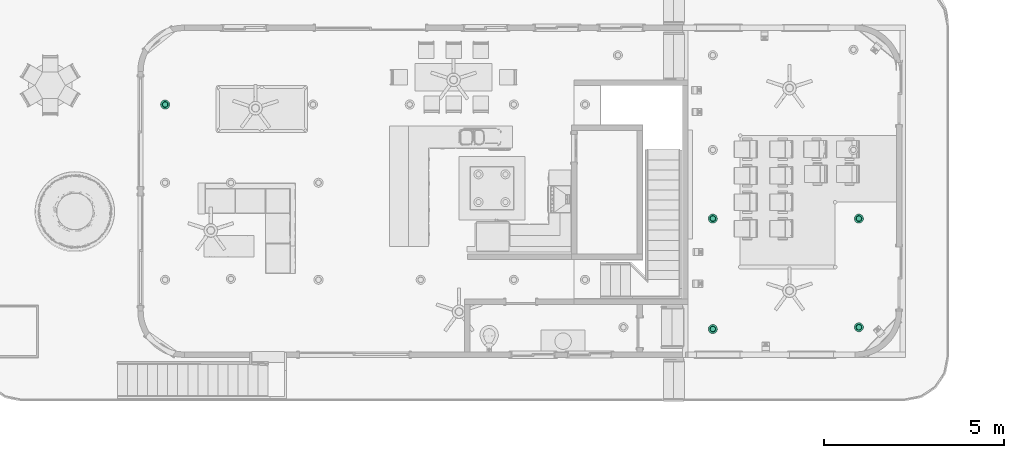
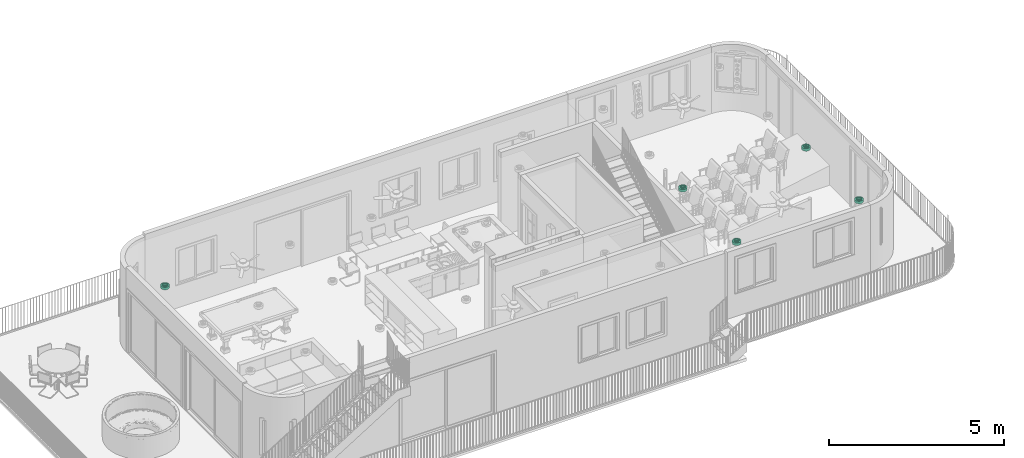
# One storey, part 15 of 21: 5 flow terminals.
"""IFC2X3 building model written with IfcOpenShell, lengths in feet."""

from ifc_helpers import new_model, entity, si_unit, converted_unit, derived_unit, direction, frame, origin, place, context, subcontext, project, spatial, faceted_brep, source, transform, mapped, material, material_list, type_object, type_shapes, element, save


model = new_model("IFC2X3")

# Units and contexts
model_context = context("Model", 3, precision=0.0001, world=origin(), true_north=direction((6.12303176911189e-17, 1.0)))
body_context = subcontext(model_context, "Body", "Model", "MODEL_VIEW")
ifc_project = project(units=[converted_unit("LENGTHUNIT", "FOOT", entity("IfcRatioMeasure", 0.3048), si_unit("LENGTHUNIT", "METRE"), dimensions=[1, 0, 0, 0, 0, 0, 0]), converted_unit("AREAUNIT", "SQUARE FOOT", entity("IfcRatioMeasure", 0.09290304), si_unit("AREAUNIT", "SQUARE_METRE"), dimensions=[2, 0, 0, 0, 0, 0, 0]), converted_unit("VOLUMEUNIT", "CUBIC FOOT", entity("IfcRatioMeasure", 0.028316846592), si_unit("VOLUMEUNIT", "CUBIC_METRE"), dimensions=[3, 0, 0, 0, 0, 0, 0]), converted_unit("PLANEANGLEUNIT", "DEGREE", entity("IfcRatioMeasure", 0.0174532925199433), si_unit("PLANEANGLEUNIT", "RADIAN"), dimensions=[0, 0, 0, 0, 0, 0, 0]), si_unit("MASSUNIT", "GRAM", prefix="KILO"), derived_unit("MASSDENSITYUNIT", [(si_unit("MASSUNIT", "GRAM", prefix="KILO"), 1), (si_unit("LENGTHUNIT", "METRE"), -3)]), si_unit("TIMEUNIT", "SECOND"), si_unit("FREQUENCYUNIT", "HERTZ"), si_unit("THERMODYNAMICTEMPERATUREUNIT", "DEGREE_CELSIUS"), derived_unit("THERMALTRANSMITTANCEUNIT", [(si_unit("MASSUNIT", "GRAM", prefix="KILO"), 1), (si_unit("THERMODYNAMICTEMPERATUREUNIT", "KELVIN"), -1), (si_unit("TIMEUNIT", "SECOND"), -3)]), derived_unit("VOLUMETRICFLOWRATEUNIT", [(si_unit("LENGTHUNIT", "METRE"), 3), (si_unit("TIMEUNIT", "SECOND"), -1)]), si_unit("ELECTRICCURRENTUNIT", "AMPERE"), si_unit("ELECTRICVOLTAGEUNIT", "VOLT"), si_unit("POWERUNIT", "WATT"), si_unit("FORCEUNIT", "NEWTON"), si_unit("ILLUMINANCEUNIT", "LUX"), si_unit("LUMINOUSFLUXUNIT", "LUMEN"), si_unit("LUMINOUSINTENSITYUNIT", "CANDELA"), derived_unit("USERDEFINED", [(si_unit("MASSUNIT", "GRAM", prefix="KILO"), -1), (si_unit("LENGTHUNIT", "METRE"), -2), (si_unit("TIMEUNIT", "SECOND"), 3), (si_unit("LUMINOUSFLUXUNIT", "LUMEN"), 1)]), derived_unit("LINEARVELOCITYUNIT", [(si_unit("LENGTHUNIT", "METRE"), 1), (si_unit("TIMEUNIT", "SECOND"), -1)]), si_unit("PRESSUREUNIT", "PASCAL"), derived_unit("USERDEFINED", [(si_unit("LENGTHUNIT", "METRE"), -2), (si_unit("MASSUNIT", "GRAM", prefix="KILO"), 1), (si_unit("TIMEUNIT", "SECOND"), -2)])], contexts=[model_context])

# Site, building, storey
site_placement = place(None, origin())
site = spatial("IfcSite", under=ifc_project, at=site_placement, Name="表面", CompositionType="ELEMENT")
building_placement = place(site_placement, origin())
building = spatial("IfcBuilding", under=site, at=building_placement, CompositionType="ELEMENT")
storey_placement = place(building_placement, origin())
storey = spatial("IfcBuildingStorey", under=building, at=storey_placement, Name="Level 1", CompositionType="ELEMENT", Elevation=0.0)

# Flow terminals
ifc_material_1 = material(Name="Metal - Paint Finish - Dark Gray, Matte")
ifc_material_2 = material(Name="Glass - White, High Luminance")
ifc_material_list_1 = material_list([ifc_material_1, ifc_material_2])
ifc_material_list_2 = material_list([ifc_material_1, ifc_material_2])
light_fixture_type = type_object("IfcLightFixtureType", Name="100W - 120V", PredefinedType="NOTDEFINED", material=ifc_material_list_2)
shared_shape = source(origin(), body_context, "Body", "Brep", [
    faceted_brep([(0.557291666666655, 0.187326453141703, 0.374999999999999), (0.598651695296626, 0.245098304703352, 0.374999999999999), (0.558098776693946, 0.218001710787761, 0.374999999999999), (0.629345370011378, 0.247786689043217, 0.374999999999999), (0.517545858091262, 0.190905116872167, 0.374999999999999), (0.468904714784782, 0.155156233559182, 0.374999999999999), (0.625748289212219, 0.285651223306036, 0.374999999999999), (0.65284488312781, 0.326204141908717, 0.374999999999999), (0.676375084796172, 0.329244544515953, 0.374999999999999), (0.6623599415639, 0.374039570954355, 0.374999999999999), (0.671874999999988, 0.42187499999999, 0.374999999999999), (0.692708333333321, 0.421874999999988, 0.374999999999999), (0.676375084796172, 0.514505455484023, 0.374999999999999), (0.662359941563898, 0.469710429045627, 0.374999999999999), (0.652844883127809, 0.517545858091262, 0.374999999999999), (0.629345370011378, 0.595963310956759, 0.374999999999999), (0.625748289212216, 0.558098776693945, 0.374999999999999), (0.598651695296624, 0.598651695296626, 0.374999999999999), (0.557291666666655, 0.656423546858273, 0.374999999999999), (0.55809877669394, 0.625748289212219, 0.374999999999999), (0.517545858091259, 0.65284488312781, 0.374999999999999), (0.468904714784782, 0.688593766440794, 0.374999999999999), (0.469710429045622, 0.662359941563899, 0.374999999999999), (0.421874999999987, 0.671874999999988, 0.374999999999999), (0.374845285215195, 0.688593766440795, 0.374999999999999), (0.374039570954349, 0.662359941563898, 0.374999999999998), (0.326204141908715, 0.652844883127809, 0.374999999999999), (0.286458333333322, 0.656423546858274, 0.374999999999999), (0.285651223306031, 0.625748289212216, 0.374999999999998), (0.245098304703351, 0.598651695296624, 0.374999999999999), (0.214404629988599, 0.59596331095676, 0.374999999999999), (0.218001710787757, 0.558098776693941, 0.374999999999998), (0.190905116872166, 0.51754585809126, 0.374999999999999), (0.167374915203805, 0.514505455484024, 0.374999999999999), (0.181390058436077, 0.469710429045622, 0.374999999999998), (0.171874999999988, 0.421874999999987, 0.374999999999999), (0.151041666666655, 0.421874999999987, 0.374999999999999), (0.167374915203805, 0.329244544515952, 0.374999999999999), (0.181390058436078, 0.374039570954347, 0.374999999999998), (0.190905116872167, 0.326204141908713, 0.374999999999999), (0.214404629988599, 0.247786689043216, 0.374999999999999), (0.218001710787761, 0.28565122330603, 0.374999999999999), (0.245098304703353, 0.245098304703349, 0.374999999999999), (0.286458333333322, 0.187326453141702, 0.374999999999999), (0.285651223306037, 0.218001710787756, 0.374999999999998), (0.326204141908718, 0.190905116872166, 0.374999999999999), (0.374845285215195, 0.155156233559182, 0.374999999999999), (0.42187499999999, 0.171874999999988, 0.374999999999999), (0.374039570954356, 0.181390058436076, 0.374999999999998), (0.469710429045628, 0.181390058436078, 0.374999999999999), (0.557291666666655, 0.656423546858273, 0.291666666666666), (0.598651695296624, 0.598651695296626, 0.291666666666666), (0.55809877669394, 0.625748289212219, 0.291666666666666), (0.629345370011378, 0.595963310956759, 0.291666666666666), (0.517545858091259, 0.65284488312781, 0.291666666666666), (0.468904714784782, 0.688593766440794, 0.291666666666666), (0.625748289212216, 0.558098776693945, 0.291666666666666), (0.652844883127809, 0.517545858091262, 0.291666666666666), (0.676375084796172, 0.514505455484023, 0.291666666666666), (0.662359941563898, 0.469710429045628, 0.291666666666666), (0.671874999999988, 0.42187499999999, 0.291666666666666), (0.692708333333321, 0.421874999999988, 0.291666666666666), (0.676375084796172, 0.329244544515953, 0.291666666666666), (0.659760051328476, 0.36096904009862, 0.291666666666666), (0.65284488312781, 0.326204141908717, 0.291666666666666), (0.629345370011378, 0.247786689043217, 0.291666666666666), (0.625748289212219, 0.285651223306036, 0.291666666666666), (0.598651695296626, 0.245098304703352, 0.291666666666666), (0.557291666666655, 0.187326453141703, 0.291666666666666), (0.558098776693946, 0.218001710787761, 0.291666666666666), (0.517545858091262, 0.190905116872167, 0.291666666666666), (0.468904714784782, 0.155156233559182, 0.291666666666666), (0.469710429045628, 0.181390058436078, 0.291666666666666), (0.42187499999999, 0.171874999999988, 0.291666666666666), (0.374845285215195, 0.155156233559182, 0.291666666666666), (0.374039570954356, 0.181390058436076, 0.291666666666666), (0.326204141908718, 0.190905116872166, 0.291666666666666), (0.286458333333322, 0.187326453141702, 0.291666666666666), (0.285651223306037, 0.218001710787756, 0.291666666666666), (0.245098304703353, 0.245098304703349, 0.291666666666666), (0.214404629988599, 0.247786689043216, 0.291666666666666), (0.218001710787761, 0.28565122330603, 0.291666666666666), (0.190905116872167, 0.326204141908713, 0.291666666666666), (0.167374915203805, 0.329244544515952, 0.291666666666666), (0.181390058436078, 0.374039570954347, 0.291666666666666), (0.171874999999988, 0.421874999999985, 0.291666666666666), (0.151041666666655, 0.421874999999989, 0.291666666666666), (0.167374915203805, 0.514505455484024, 0.291666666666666), (0.183989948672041, 0.482780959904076, 0.291666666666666), (0.190905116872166, 0.51754585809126, 0.291666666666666), (0.214404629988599, 0.59596331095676, 0.291666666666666), (0.218001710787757, 0.558098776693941, 0.291666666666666), (0.245098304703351, 0.598651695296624, 0.291666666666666), (0.286458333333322, 0.656423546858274, 0.291666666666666), (0.285651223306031, 0.625748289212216, 0.291666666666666), (0.326204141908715, 0.652844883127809, 0.291666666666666), (0.374845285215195, 0.688593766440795, 0.291666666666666), (0.421874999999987, 0.671874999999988, 0.291666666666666), (0.374039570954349, 0.662359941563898, 0.291666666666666), (0.469710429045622, 0.662359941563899, 0.291666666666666)], [[[0, 1, 2]], [[1, 0, 3]], [[0, 2, 4]], [[4, 5, 0]], [[3, 6, 1]], [[3, 7, 6]], [[7, 3, 8]], [[8, 9, 7]], [[8, 10, 9]], [[10, 8, 11]], [[10, 11, 12]], [[12, 13, 10]], [[12, 14, 13]], [[15, 14, 12]], [[15, 16, 14]], [[15, 17, 16]], [[18, 17, 15]], [[18, 19, 17]], [[18, 20, 19]], [[21, 20, 18]], [[21, 22, 20]], [[21, 23, 22]], [[24, 23, 21]], [[24, 25, 23]], [[24, 26, 25]], [[27, 26, 24]], [[27, 28, 26]], [[27, 29, 28]], [[29, 27, 30]], [[30, 31, 29]], [[30, 32, 31]], [[32, 30, 33]], [[33, 34, 32]], [[33, 35, 34]], [[36, 35, 33]], [[37, 35, 36]], [[37, 38, 35]], [[37, 39, 38]], [[39, 37, 40]], [[40, 41, 39]], [[40, 42, 41]], [[42, 40, 43]], [[43, 44, 42]], [[43, 45, 44]], [[45, 43, 46]], [[47, 46, 5]], [[46, 47, 48]], [[46, 48, 45]], [[5, 4, 49]], [[5, 49, 47]], [[50, 51, 52]], [[51, 50, 53]], [[50, 52, 54]], [[54, 55, 50]], [[53, 56, 51]], [[53, 57, 56]], [[57, 53, 58]], [[58, 59, 57]], [[58, 60, 59]], [[60, 58, 61]], [[60, 61, 62]], [[62, 63, 60]], [[62, 64, 63]], [[65, 64, 62]], [[65, 66, 64]], [[65, 67, 66]], [[68, 67, 65]], [[68, 69, 67]], [[68, 70, 69]], [[71, 70, 68]], [[71, 72, 70]], [[71, 73, 72]], [[74, 73, 71]], [[74, 75, 73]], [[74, 76, 75]], [[77, 76, 74]], [[77, 78, 76]], [[77, 79, 78]], [[79, 77, 80]], [[80, 81, 79]], [[80, 82, 81]], [[82, 80, 83]], [[83, 84, 82]], [[83, 85, 84]], [[86, 85, 83]], [[87, 85, 86]], [[87, 88, 85]], [[87, 89, 88]], [[89, 87, 90]], [[90, 91, 89]], [[90, 92, 91]], [[92, 90, 93]], [[93, 94, 92]], [[93, 95, 94]], [[95, 93, 96]], [[97, 96, 55]], [[96, 97, 98]], [[96, 98, 95]], [[55, 54, 99]], [[55, 99, 97]], [[37, 36, 86, 83]], [[43, 40, 80, 77]], [[83, 80, 40, 37]], [[77, 74, 46, 43]], [[74, 71, 5, 46]], [[0, 5, 71, 68]], [[8, 3, 65, 62]], [[68, 65, 3, 0]], [[62, 61, 11, 8]], [[12, 11, 61, 58]], [[18, 15, 53, 50]], [[58, 53, 15, 12]], [[50, 55, 21, 18]], [[55, 96, 24, 21]], [[27, 24, 96, 93]], [[87, 33, 30, 90]], [[90, 30, 27, 93]], [[33, 87, 86, 36]], [[34, 35, 85, 88, 89, 32]], [[89, 91, 92, 29, 31, 32]], [[59, 60, 10, 13, 14, 57]], [[92, 94, 95, 26, 28, 29]], [[23, 25, 26, 95, 98, 97]], [[97, 99, 54, 20, 22, 23]], [[16, 17, 51, 56, 57, 14]], [[54, 52, 51, 17, 19, 20]], [[9, 10, 60, 63, 64, 7]], [[64, 66, 67, 1, 6, 7]], [[84, 85, 35, 38, 39, 82]], [[67, 69, 70, 4, 2, 1]], [[47, 49, 4, 70, 72, 73]], [[73, 75, 76, 45, 48, 47]], [[41, 42, 79, 81, 82, 39]], [[76, 78, 79, 42, 44, 45]]]),
    faceted_brep([(0.671874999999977, 0.421874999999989, 0.291666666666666), (0.838541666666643, 0.421874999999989, 0.291666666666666), (0.81814854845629, 0.550632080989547, 0.291666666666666), (0.818148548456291, 0.293117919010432, 0.291666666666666), (0.659760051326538, 0.360969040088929, 0.291666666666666), (0.662359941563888, 0.469710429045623, 0.291666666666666), (0.6528448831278, 0.326204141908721, 0.291666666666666), (0.758965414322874, 0.176964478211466, 0.291666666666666), (0.625748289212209, 0.28565122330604, 0.291666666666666), (0.598651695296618, 0.24509830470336, 0.291666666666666), (0.666785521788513, 0.084784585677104, 0.291666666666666), (0.558098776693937, 0.218001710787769, 0.291666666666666), (0.517545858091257, 0.190905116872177, 0.291666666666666), (0.550632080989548, 0.025601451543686, 0.291666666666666), (0.469710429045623, 0.181390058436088, 0.291666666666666), (0.421874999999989, 0.171874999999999, 0.291666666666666), (0.42187499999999, 0.00520833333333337, 0.291666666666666), (0.293117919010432, 0.0256014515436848, 0.291666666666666), (0.374039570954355, 0.181390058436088, 0.291666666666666), (0.326204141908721, 0.190905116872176, 0.291666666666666), (0.176964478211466, 0.0847845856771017, 0.291666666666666), (0.285651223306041, 0.218001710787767, 0.291666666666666), (0.24509830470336, 0.245098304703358, 0.291666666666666), (0.0847845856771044, 0.176964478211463, 0.291666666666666), (0.218001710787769, 0.285651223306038, 0.291666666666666), (0.190905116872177, 0.326204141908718, 0.291666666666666), (0.0256014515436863, 0.293117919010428, 0.291666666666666), (0.181390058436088, 0.374039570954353, 0.291666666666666), (0.171874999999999, 0.421874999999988, 0.291666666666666), (0.00520833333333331, 0.421874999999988, 0.291666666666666), (0.0256014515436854, 0.550632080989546, 0.291666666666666), (0.183989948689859, 0.482780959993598, 0.291666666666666), (0.190905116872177, 0.517545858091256, 0.291666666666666), (0.0847845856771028, 0.666785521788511, 0.291666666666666), (0.218001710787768, 0.558098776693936, 0.291666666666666), (0.245098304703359, 0.598651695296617, 0.291666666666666), (0.176964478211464, 0.758965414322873, 0.291666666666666), (0.285651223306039, 0.625748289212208, 0.291666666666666), (0.32620414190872, 0.652844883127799, 0.291666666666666), (0.29311791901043, 0.81814854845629, 0.291666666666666), (0.374039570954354, 0.662359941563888, 0.291666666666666), (0.421874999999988, 0.671874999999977, 0.291666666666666), (0.421874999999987, 0.838541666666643, 0.291666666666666), (0.550632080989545, 0.818148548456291, 0.291666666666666), (0.469710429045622, 0.662359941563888, 0.291666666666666), (0.517545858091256, 0.6528448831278, 0.291666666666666), (0.666785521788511, 0.758965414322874, 0.291666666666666), (0.558098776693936, 0.625748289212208, 0.291666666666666), (0.598651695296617, 0.598651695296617, 0.291666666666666), (0.758965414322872, 0.666785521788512, 0.291666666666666), (0.625748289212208, 0.558098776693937, 0.291666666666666), (0.652844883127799, 0.517545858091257, 0.291666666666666), (0.0256014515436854, 0.550632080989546, 0.0), (0.00520833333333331, 0.421874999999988, 0.0), (0.0847845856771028, 0.666785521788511, 0.0), (0.176964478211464, 0.758965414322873, 0.0), (0.29311791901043, 0.818148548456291, 0.0), (0.421874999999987, 0.838541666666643, 0.0), (0.550632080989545, 0.818148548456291, 0.0), (0.666785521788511, 0.758965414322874, 0.0), (0.758965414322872, 0.666785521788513, 0.0), (0.81814854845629, 0.550632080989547, 0.0), (0.838541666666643, 0.42187499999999, 0.0), (0.818148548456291, 0.293117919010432, 0.0), (0.666785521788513, 0.0847845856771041, 0.0), (0.550632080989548, 0.025601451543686, 0.0), (0.42187499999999, 0.00520833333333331, 0.0), (0.758965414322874, 0.176964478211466, 0.0), (0.293117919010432, 0.0256014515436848, 0.0), (0.176964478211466, 0.0847845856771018, 0.0), (0.0847845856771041, 0.176964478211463, 0.0), (0.025601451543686, 0.293117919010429, 0.0), (0.421874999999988, 0.421874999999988, 0.0), (0.808241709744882, 0.547413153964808, 0.0104166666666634), (0.421874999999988, 0.421874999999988, 0.0104166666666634), (0.828124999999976, 0.421874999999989, 0.0104166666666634), (0.7505381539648, 0.660662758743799, 0.0104166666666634), (0.660662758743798, 0.750538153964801, 0.0104166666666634), (0.547413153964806, 0.808241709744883, 0.0104166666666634), (0.421874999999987, 0.828124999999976, 0.0104166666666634), (0.296336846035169, 0.808241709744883, 0.0104166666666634), (0.183087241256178, 0.750538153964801, 0.0104166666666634), (0.0932118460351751, 0.660662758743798, 0.0104166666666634), (0.0355082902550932, 0.547413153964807, 0.0104166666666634), (0.0156249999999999, 0.421874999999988, 0.0104166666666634), (0.0355082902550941, 0.296336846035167, 0.0104166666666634), (0.0932118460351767, 0.183087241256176, 0.0104166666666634), (0.18308724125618, 0.093211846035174, 0.0104166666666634), (0.296336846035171, 0.0355082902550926, 0.0104166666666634), (0.42187499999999, 0.0156249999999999, 0.0104166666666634), (0.547413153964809, 0.0355082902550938, 0.0104166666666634), (0.6606627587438, 0.0932118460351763, 0.0104166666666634), (0.750538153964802, 0.183087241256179, 0.0104166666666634), (0.808241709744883, 0.296336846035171, 0.0104166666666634), (0.0355082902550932, 0.547413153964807, 0.281249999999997), (0.0156249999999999, 0.421874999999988, 0.281249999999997), (0.0932118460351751, 0.660662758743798, 0.281249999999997), (0.183087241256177, 0.750538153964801, 0.281249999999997), (0.296336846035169, 0.808241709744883, 0.281249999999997), (0.421874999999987, 0.828124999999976, 0.281249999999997), (0.660662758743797, 0.750538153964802, 0.281249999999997), (0.547413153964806, 0.808241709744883, 0.281249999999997), (0.808241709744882, 0.547413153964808, 0.281249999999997), (0.7505381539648, 0.660662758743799, 0.281249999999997), (0.828124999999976, 0.42187499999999, 0.281249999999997), (0.808241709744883, 0.296336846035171, 0.281249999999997), (0.547413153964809, 0.0355082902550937, 0.281249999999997), (0.6606627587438, 0.0932118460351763, 0.281249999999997), (0.42187499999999, 0.0156249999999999, 0.281249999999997), (0.750538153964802, 0.183087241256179, 0.281249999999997), (0.183087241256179, 0.0932118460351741, 0.281249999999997), (0.296336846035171, 0.0355082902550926, 0.281249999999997), (0.0355082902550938, 0.296336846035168, 0.281249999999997), (0.0932118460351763, 0.183087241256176, 0.281249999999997), (0.66145833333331, 0.421874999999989, 0.281249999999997), (0.650878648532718, 0.475062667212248, 0.281249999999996), (0.643221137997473, 0.513559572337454, 0.281249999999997), (0.650878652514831, 0.368687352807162, 0.281249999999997), (0.643221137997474, 0.330190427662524, 0.281249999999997), (0.617253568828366, 0.291327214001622, 0.281249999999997), (0.591285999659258, 0.25246400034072, 0.281249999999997), (0.552422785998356, 0.226496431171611, 0.281249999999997), (0.513559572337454, 0.200528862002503, 0.281249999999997), (0.467717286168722, 0.191410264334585, 0.281249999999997), (0.421874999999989, 0.182291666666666, 0.281249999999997), (0.376032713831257, 0.191410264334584, 0.281249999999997), (0.330190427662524, 0.200528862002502, 0.281249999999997), (0.291327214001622, 0.22649643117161, 0.281249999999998), (0.25246400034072, 0.252464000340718, 0.281249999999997), (0.226496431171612, 0.29132721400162, 0.281249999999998), (0.200528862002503, 0.330190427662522, 0.281249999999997), (0.191410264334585, 0.376032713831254, 0.281249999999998), (0.182291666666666, 0.421874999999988, 0.281249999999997), (0.192871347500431, 0.47506264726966, 0.281249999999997), (0.200528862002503, 0.513559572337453, 0.281249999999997), (0.226496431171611, 0.552422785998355, 0.281249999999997), (0.252464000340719, 0.591285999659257, 0.281249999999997), (0.291327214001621, 0.617253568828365, 0.281249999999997), (0.330190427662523, 0.643221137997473, 0.281249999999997), (0.376032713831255, 0.652339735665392, 0.281249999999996), (0.421874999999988, 0.66145833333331, 0.281249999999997), (0.46771728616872, 0.652339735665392, 0.281249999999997), (0.513559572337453, 0.643221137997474, 0.281249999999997), (0.591285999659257, 0.591285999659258, 0.281249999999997), (0.552422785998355, 0.617253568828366, 0.281249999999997), (0.617253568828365, 0.552422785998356, 0.281249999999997), (0.191410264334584, 0.467717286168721, 0.375), (0.182291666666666, 0.421874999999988, 0.375), (0.200528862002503, 0.513559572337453, 0.375), (0.252464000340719, 0.591285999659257, 0.375), (0.226496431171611, 0.552422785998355, 0.375), (0.330190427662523, 0.643221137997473, 0.375), (0.291327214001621, 0.617253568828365, 0.375), (0.421874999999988, 0.66145833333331, 0.375), (0.376032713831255, 0.652339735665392, 0.375), (0.552422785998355, 0.617253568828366, 0.375), (0.513559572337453, 0.643221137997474, 0.375), (0.591285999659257, 0.591285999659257, 0.375), (0.643221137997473, 0.513559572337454, 0.375), (0.617253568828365, 0.552422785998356, 0.375), (0.46771728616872, 0.652339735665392, 0.375), (0.652339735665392, 0.467717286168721, 0.375), (0.66145833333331, 0.421874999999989, 0.375), (0.652339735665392, 0.376032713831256, 0.375), (0.643221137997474, 0.330190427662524, 0.375), (0.591285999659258, 0.25246400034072, 0.375), (0.617253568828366, 0.291327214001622, 0.375), (0.513559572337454, 0.200528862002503, 0.375), (0.552422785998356, 0.226496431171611, 0.375), (0.421874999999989, 0.182291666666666, 0.375), (0.467717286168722, 0.191410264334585, 0.375), (0.200528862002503, 0.330190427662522, 0.375), (0.192871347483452, 0.368687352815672, 0.375), (0.25246400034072, 0.252464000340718, 0.375), (0.291327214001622, 0.22649643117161, 0.375), (0.330190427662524, 0.200528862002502, 0.375), (0.226496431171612, 0.29132721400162, 0.375), (0.376032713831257, 0.191410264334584, 0.375), (0.671874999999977, 0.421874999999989, 0.375), (0.659760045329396, 0.482780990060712, 0.375), (0.652844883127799, 0.517545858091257, 0.375), (0.662359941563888, 0.374039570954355, 0.375), (0.6528448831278, 0.326204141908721, 0.375), (0.625748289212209, 0.28565122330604, 0.375), (0.598651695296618, 0.24509830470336, 0.375), (0.558098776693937, 0.218001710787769, 0.375), (0.517545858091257, 0.190905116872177, 0.375), (0.469710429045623, 0.181390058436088, 0.375), (0.421874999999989, 0.171874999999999, 0.375), (0.374039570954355, 0.181390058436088, 0.375), (0.326204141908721, 0.190905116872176, 0.375), (0.285651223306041, 0.218001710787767, 0.375), (0.24509830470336, 0.245098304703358, 0.375), (0.218001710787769, 0.285651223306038, 0.375), (0.190905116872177, 0.326204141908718, 0.375), (0.183989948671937, 0.360969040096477, 0.375), (0.171874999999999, 0.421874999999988, 0.375), (0.181390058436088, 0.469710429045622, 0.375), (0.190905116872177, 0.517545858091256, 0.375), (0.218001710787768, 0.558098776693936, 0.375), (0.245098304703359, 0.598651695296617, 0.375), (0.285651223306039, 0.625748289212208, 0.375), (0.32620414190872, 0.652844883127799, 0.375), (0.374039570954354, 0.662359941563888, 0.375), (0.421874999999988, 0.671874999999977, 0.375), (0.469710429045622, 0.662359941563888, 0.375), (0.517545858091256, 0.6528448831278, 0.375), (0.558098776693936, 0.625748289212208, 0.375), (0.598651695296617, 0.598651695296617, 0.375), (0.625748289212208, 0.558098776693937, 0.375)], [[[0, 1, 2]], [[0, 3, 1]], [[3, 0, 4]], [[2, 5, 0]], [[3, 4, 6]], [[7, 3, 6]], [[7, 6, 8]], [[7, 8, 9]], [[10, 7, 9]], [[10, 9, 11]], [[10, 11, 12]], [[10, 12, 13]], [[13, 12, 14]], [[13, 14, 15]], [[16, 13, 15]], [[16, 15, 17]], [[17, 15, 18]], [[17, 18, 19]], [[17, 19, 20]], [[20, 19, 21]], [[20, 21, 22]], [[23, 20, 22]], [[23, 22, 24]], [[23, 24, 25]], [[25, 26, 23]], [[26, 25, 27]], [[26, 27, 28]], [[29, 26, 28]], [[30, 29, 28]], [[30, 28, 31]], [[30, 31, 32]], [[30, 32, 33]], [[33, 32, 34]], [[33, 34, 35]], [[36, 33, 35]], [[36, 35, 37]], [[36, 37, 38]], [[39, 36, 38]], [[39, 38, 40]], [[39, 40, 41]], [[42, 39, 41]], [[42, 41, 43]], [[43, 41, 44]], [[43, 44, 45]], [[46, 43, 45]], [[46, 45, 47]], [[46, 47, 48]], [[46, 48, 49]], [[49, 48, 50]], [[49, 50, 51]], [[49, 51, 2]], [[2, 51, 5]], [[52, 53, 29, 30]], [[30, 33, 54, 52]], [[36, 55, 54, 33]], [[55, 36, 39, 56]], [[56, 39, 42, 57]], [[58, 43, 46, 59]], [[60, 49, 2, 61]], [[46, 49, 60, 59]], [[61, 2, 1, 62]], [[43, 58, 57, 42]], [[1, 3, 63, 62]], [[64, 10, 13, 65]], [[16, 66, 65, 13]], [[63, 3, 7, 67]], [[10, 64, 67, 7]], [[68, 17, 20, 69]], [[70, 23, 26, 71]], [[20, 23, 70, 69]], [[71, 26, 29, 53]], [[17, 68, 66, 16]], [[62, 72, 61]], [[62, 63, 72]], [[72, 63, 67]], [[72, 67, 64]], [[72, 64, 65]], [[65, 66, 72]], [[68, 72, 66]], [[72, 68, 69]], [[72, 69, 70]], [[71, 72, 70]], [[72, 71, 53]], [[72, 53, 52]], [[72, 52, 54]], [[54, 55, 72]], [[72, 55, 56]], [[56, 57, 72]], [[72, 57, 58]], [[59, 72, 58]], [[72, 59, 60]], [[61, 72, 60]], [[73, 74, 75]], [[76, 74, 73]], [[76, 77, 74]], [[78, 74, 77]], [[78, 79, 74]], [[74, 79, 80]], [[80, 81, 74]], [[74, 81, 82]], [[82, 83, 74]], [[83, 84, 74]], [[84, 85, 74]], [[86, 74, 85]], [[86, 87, 74]], [[87, 88, 74]], [[89, 74, 88]], [[74, 89, 90]], [[90, 91, 74]], [[91, 92, 74]], [[92, 93, 74]], [[74, 93, 75]], [[94, 95, 84, 83]], [[82, 96, 94, 83]], [[96, 82, 81, 97]], [[81, 80, 98, 97]], [[98, 80, 79, 99]], [[100, 101, 78, 77]], [[102, 103, 76, 73]], [[77, 76, 103, 100]], [[104, 102, 73, 75]], [[79, 78, 101, 99]], [[105, 104, 75, 93]], [[106, 107, 91, 90]], [[108, 106, 90, 89]], [[93, 92, 109, 105]], [[109, 92, 91, 107]], [[110, 111, 88, 87]], [[112, 113, 86, 85]], [[87, 86, 113, 110]], [[95, 112, 85, 84]], [[89, 88, 111, 108]], [[102, 104, 114]], [[102, 114, 115]], [[102, 115, 116]], [[102, 116, 103]], [[104, 105, 114]], [[105, 117, 114]], [[105, 118, 117]], [[118, 105, 109]], [[109, 119, 118]], [[109, 120, 119]], [[120, 109, 107]], [[107, 121, 120]], [[107, 122, 121]], [[106, 122, 107]], [[106, 123, 122]], [[106, 124, 123]], [[124, 106, 108]], [[111, 124, 108]], [[111, 125, 124]], [[111, 126, 125]], [[110, 126, 111]], [[110, 127, 126]], [[110, 128, 127]], [[128, 110, 113]], [[113, 129, 128]], [[113, 130, 129]], [[113, 112, 130]], [[112, 131, 130]], [[112, 132, 131]], [[132, 112, 95]], [[132, 95, 94]], [[94, 133, 132]], [[94, 134, 133]], [[96, 134, 94]], [[96, 135, 134]], [[96, 136, 135]], [[136, 96, 97]], [[97, 137, 136]], [[97, 138, 137]], [[138, 97, 98]], [[98, 139, 138]], [[98, 140, 139]], [[140, 98, 99]], [[101, 140, 99]], [[101, 141, 140]], [[101, 142, 141]], [[142, 101, 100]], [[103, 143, 100]], [[100, 143, 144]], [[100, 144, 142]], [[103, 116, 145]], [[103, 145, 143]], [[146, 147, 132, 133, 134, 148]], [[136, 149, 150, 148, 134, 135]], [[136, 137, 138, 151, 152, 149]], [[151, 138, 139, 140, 153, 154]], [[155, 156, 142, 144, 143, 157]], [[116, 158, 159, 157, 143, 145]], [[153, 140, 141, 142, 156, 160]], [[161, 158, 116, 115, 114, 162]], [[163, 162, 114, 117, 118, 164]], [[120, 165, 166, 164, 118, 119]], [[120, 121, 122, 167, 168, 165]], [[123, 124, 169, 170, 167, 122]], [[171, 130, 131, 132, 147, 172]], [[128, 173, 174, 175, 126, 127]], [[128, 129, 130, 171, 176, 173]], [[175, 177, 169, 124, 125, 126]], [[162, 178, 179]], [[162, 179, 180]], [[180, 161, 162]], [[162, 181, 178]], [[162, 182, 181]], [[182, 162, 163]], [[182, 163, 164]], [[164, 183, 182]], [[164, 184, 183]], [[184, 164, 166]], [[184, 166, 165]], [[165, 185, 184]], [[165, 186, 185]], [[186, 165, 168]], [[186, 168, 167]], [[167, 187, 186]], [[167, 188, 187]], [[188, 167, 170]], [[188, 170, 169]], [[188, 169, 177]], [[188, 177, 175]], [[175, 189, 188]], [[175, 190, 189]], [[190, 175, 174]], [[190, 174, 173]], [[173, 191, 190]], [[173, 192, 191]], [[192, 173, 176]], [[192, 176, 171]], [[171, 193, 192]], [[171, 194, 193]], [[194, 171, 172]], [[194, 172, 147]], [[147, 195, 194]], [[147, 196, 195]], [[147, 197, 196]], [[147, 198, 197]], [[198, 147, 146]], [[198, 146, 148]], [[148, 199, 198]], [[148, 200, 199]], [[200, 148, 150]], [[200, 150, 149]], [[149, 201, 200]], [[149, 202, 201]], [[202, 149, 152]], [[202, 152, 151]], [[151, 203, 202]], [[151, 204, 203]], [[204, 151, 154]], [[204, 154, 153]], [[204, 153, 160]], [[204, 160, 156]], [[156, 205, 204]], [[156, 206, 205]], [[206, 156, 155]], [[206, 155, 157]], [[157, 207, 206]], [[157, 208, 207]], [[208, 157, 159]], [[208, 159, 158]], [[158, 180, 209]], [[180, 158, 161]], [[158, 209, 208]], [[198, 32, 31, 28, 196, 197]], [[199, 200, 35, 34, 32, 198]], [[200, 201, 202, 38, 37, 35]], [[40, 38, 202, 203, 204, 41]], [[47, 45, 206, 207, 208, 48]], [[178, 0, 5, 51, 180, 179]], [[208, 209, 180, 51, 50, 48]], [[45, 44, 41, 204, 205, 206]], [[182, 6, 4, 0, 178, 181]], [[183, 184, 9, 8, 6, 182]], [[184, 185, 186, 12, 11, 9]], [[187, 188, 15, 14, 12, 186]], [[195, 196, 28, 27, 25, 194]], [[191, 192, 22, 21, 19, 190]], [[192, 193, 194, 25, 24, 22]], [[19, 18, 15, 188, 189, 190]]]),
])
type_shapes(light_fixture_type, [shared_shape])
flow_terminal_1_placement = place(storey_placement, frame((-31.9567880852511, 9.26051869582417, 8.625)))
element("IfcFlowTerminal", 1, at=flow_terminal_1_placement, inside=storey, type_object=light_fixture_type, material=ifc_material_list_1, Name="Ceiling Light - Flat Round:100W - 120V", ObjectType="100W - 120V", context=body_context, shape_type="MappedRepresentation", body=[
    mapped(shared_shape, transform((0.0, 0.0, 0.0), scale=1.0)),
])
ifc_material_list_3 = material_list([ifc_material_1, ifc_material_2])
flow_terminal_2_placement = place(storey_placement, frame((18.0432119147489, -1.15614797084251, 8.625)))
element("IfcFlowTerminal", 2, at=flow_terminal_2_placement, inside=storey, type_object=light_fixture_type, material=ifc_material_list_3, Name="Ceiling Light - Flat Round:100W - 120V", ObjectType="100W - 120V", context=body_context, shape_type="MappedRepresentation", body=[
    mapped(shared_shape, transform((0.0, 0.0, 0.0), scale=1.0)),
])
ifc_material_list_4 = material_list([ifc_material_1, ifc_material_2])
flow_terminal_3_placement = place(storey_placement, frame((31.3765452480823, -1.15614797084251, 8.625)))
element("IfcFlowTerminal", 3, at=flow_terminal_3_placement, inside=storey, type_object=light_fixture_type, material=ifc_material_list_4, Name="Ceiling Light - Flat Round:100W - 120V", ObjectType="100W - 120V", context=body_context, shape_type="MappedRepresentation", body=[
    mapped(shared_shape, transform((0.0, 0.0, 0.0), scale=1.0)),
])
ifc_material_list_5 = material_list([ifc_material_1, ifc_material_2])
flow_terminal_4_placement = place(storey_placement, frame((18.0432119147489, -11.2394813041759, 8.625)))
element("IfcFlowTerminal", 4, at=flow_terminal_4_placement, inside=storey, type_object=light_fixture_type, material=ifc_material_list_5, Name="Ceiling Light - Flat Round:100W - 120V", ObjectType="100W - 120V", context=body_context, shape_type="MappedRepresentation", body=[
    mapped(shared_shape, transform((0.0, 0.0, 0.0), scale=1.0)),
])
ifc_material_list_6 = material_list([ifc_material_1, ifc_material_2])
flow_terminal_5_placement = place(storey_placement, frame((31.3765452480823, -11.0728146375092, 8.625)))
element("IfcFlowTerminal", 5, at=flow_terminal_5_placement, inside=storey, type_object=light_fixture_type, material=ifc_material_list_6, Name="Ceiling Light - Flat Round:100W - 120V", ObjectType="100W - 120V", context=body_context, shape_type="MappedRepresentation", body=[
    mapped(shared_shape, transform((0.0, 0.0, 0.0), scale=1.0)),
])

save(model, "model.ifc")
